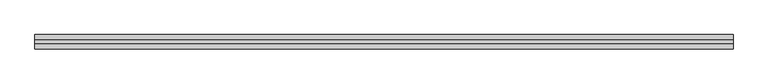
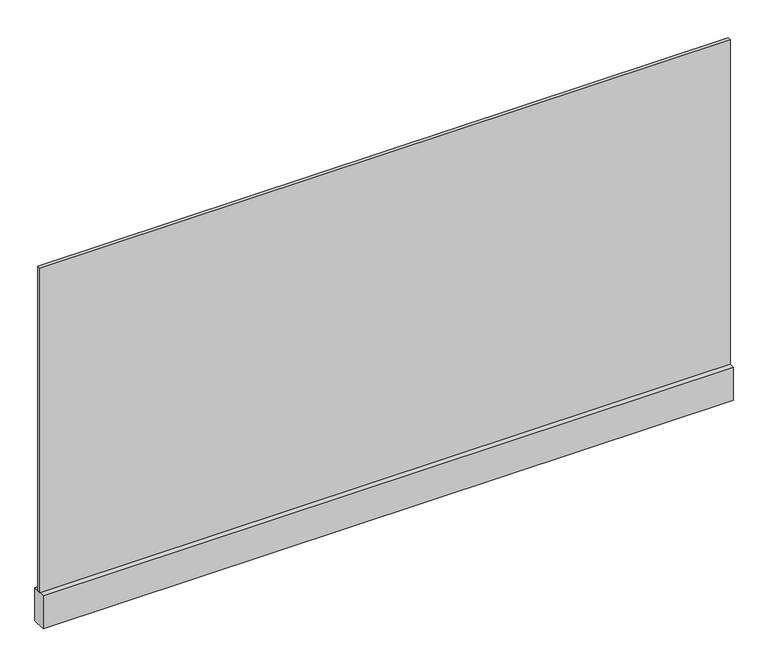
"""IFC4 building model written with IfcOpenShell, lengths in millimetres: plate geometry, r パネル FIX 下框付 : 框 H100."""

from ifc_helpers import new_model, si_unit, frame, origin, origin_with_axes, place, context, project, spatial, polyline, outline, extrude, source, transform, mapped, element, save


def plate_ce56c4f8(model_context):
    return source(origin(), model_context, "Body", "SweptSolid", [
        extrude(outline(polyline([(-981.6666666, 5.0), (981.6666666, 5.0), (981.6666666, -5.0), (-981.6666666, -5.0), (-981.6666666, 5.0)])), frame((0.0, 0.0, 100.0), z_axis=(0.0, 0.0, 1.0), x_axis=(1.0, 0.0, 0.0)), (0.0, 0.0, 1.0), 975.0),
        extrude(outline(polyline([(-981.6666666, 20.0), (981.6666666, 20.0), (981.6666666, -20.0), (-981.6666666, -20.0), (-981.6666666, 20.0)])), origin_with_axes(), (0.0, 0.0, 1.0), 100.0),
    ])


if __name__ == "__main__":
    model = new_model("IFC4")
    model_context = context("Model", 3, world=origin())
    ifc_project = project(units=[si_unit("LENGTHUNIT", "METRE", prefix="MILLI")], contexts=[model_context])
    site = spatial("IfcSite", under=ifc_project)
    building = spatial("IfcBuilding", under=site)
    placement = place(None, origin())
    plate_shape = plate_ce56c4f8(model_context)
    element("IfcPlate", 1, ObjectType="r パネル FIX 下框付 : 框 H100", at=placement, inside=building, context=model_context, shape_type="MappedRepresentation", body=[
        mapped(plate_shape, transform((0.0, 0.0, 0.0), x_axis=(1.0, 0.0, 0.0), y_axis=(0.0, 1.0, 0.0), z_axis=(0.0, 0.0, 1.0))),
    ])
    save(model, "model.ifc")
